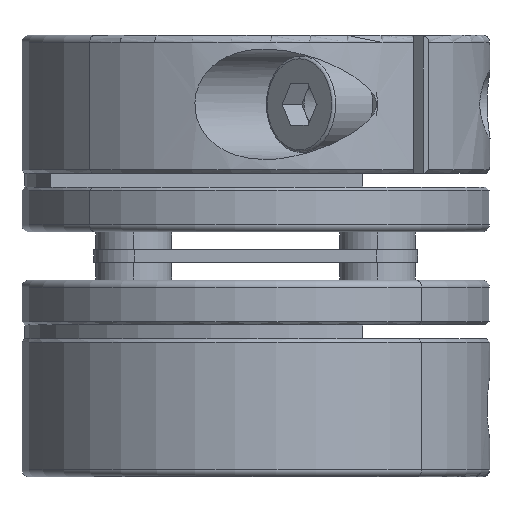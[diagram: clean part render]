
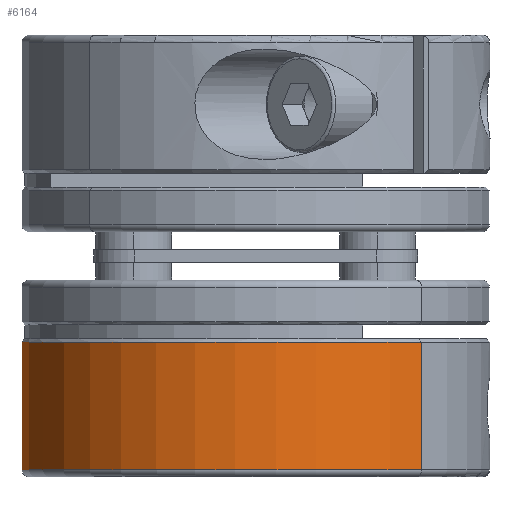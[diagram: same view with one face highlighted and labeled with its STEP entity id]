
A CAD part, left-side view. The second image highlights one B-rep face of the part: STEP entity #6164.
In plain terms, the highlighted cylindrical face has radius 17 mm (diameter 34 mm), a partial arc.
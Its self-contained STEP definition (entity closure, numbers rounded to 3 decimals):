
#95 = CARTESIAN_POINT ( 'NONE',  ( 0., 0., 0.5 ) ) ;
#162 = DIRECTION ( 'NONE',  ( 0., 0., -1. ) ) ;
#280 = AXIS2_PLACEMENT_3D ( 'NONE', #95, #4804, #3802 ) ;
#477 = ORIENTED_EDGE ( 'NONE', *, *, #5461, .F. ) ;
#737 = CARTESIAN_POINT ( 'NONE',  ( 17., 0., 9.75 ) ) ;
#752 = EDGE_CURVE ( 'NONE', #1910, #1210, #4889, .T. ) ;
#795 = CARTESIAN_POINT ( 'NONE',  ( -17., 0., 10. ) ) ;
#968 = EDGE_CURVE ( 'NONE', #1298, #1910, #3023, .T. ) ;
#1011 = CARTESIAN_POINT ( 'NONE',  ( 17., 0., 10. ) ) ;
#1210 = VERTEX_POINT ( 'NONE', #4220 ) ;
#1298 = VERTEX_POINT ( 'NONE', #737 ) ;
#1474 = VECTOR ( 'NONE', #6394, 1000. ) ;
#1529 = EDGE_LOOP ( 'NONE', ( #1972, #2506, #5331, #477 ) ) ;
#1619 = VECTOR ( 'NONE', #2924, 1000. ) ;
#1747 = LINE ( 'NONE', #795, #1474 ) ;
#1910 = VERTEX_POINT ( 'NONE', #3976 ) ;
#1972 = ORIENTED_EDGE ( 'NONE', *, *, #4401, .T. ) ;
#2506 = ORIENTED_EDGE ( 'NONE', *, *, #968, .T. ) ;
#2598 = DIRECTION ( 'NONE',  ( -1., 0., 0. ) ) ;
#2626 = FACE_OUTER_BOUND ( 'NONE', #1529, .T. ) ;
#2924 = DIRECTION ( 'NONE',  ( 0., 0., -1. ) ) ;
#3023 = LINE ( 'NONE', #1011, #1619 ) ;
#3576 = DIRECTION ( 'NONE',  ( 0., 0., -1. ) ) ;
#3802 = DIRECTION ( 'NONE',  ( 1., 0., 0. ) ) ;
#3976 = CARTESIAN_POINT ( 'NONE',  ( 17., 0., 0.5 ) ) ;
#4220 = CARTESIAN_POINT ( 'NONE',  ( -17., 0., 0.5 ) ) ;
#4390 = VERTEX_POINT ( 'NONE', #5769 ) ;
#4401 = EDGE_CURVE ( 'NONE', #4390, #1298, #4815, .T. ) ;
#4634 = CARTESIAN_POINT ( 'NONE',  ( 0., 0., 10. ) ) ;
#4764 = CARTESIAN_POINT ( 'NONE',  ( 0., 0., 9.75 ) ) ;
#4804 = DIRECTION ( 'NONE',  ( 0., 0., 1. ) ) ;
#4815 = CIRCLE ( 'NONE', #5355, 17. ) ;
#4889 = CIRCLE ( 'NONE', #280, 17. ) ;
#5331 = ORIENTED_EDGE ( 'NONE', *, *, #752, .T. ) ;
#5355 = AXIS2_PLACEMENT_3D ( 'NONE', #4764, #162, #6300 ) ;
#5461 = EDGE_CURVE ( 'NONE', #4390, #1210, #1747, .T. ) ;
#5559 = AXIS2_PLACEMENT_3D ( 'NONE', #4634, #3576, #2598 ) ;
#5749 = CYLINDRICAL_SURFACE ( 'NONE', #5559, 17. ) ;
#5769 = CARTESIAN_POINT ( 'NONE',  ( -17., 0., 9.75 ) ) ;
#6164 = ADVANCED_FACE ( 'NONE', ( #2626 ), #5749, .T. ) ;
#6300 = DIRECTION ( 'NONE',  ( 1., 0., 0. ) ) ;
#6394 = DIRECTION ( 'NONE',  ( 0., 0., -1. ) ) ;
